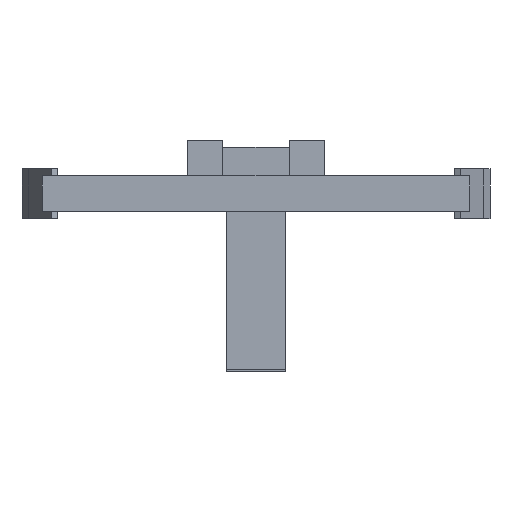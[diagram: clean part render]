
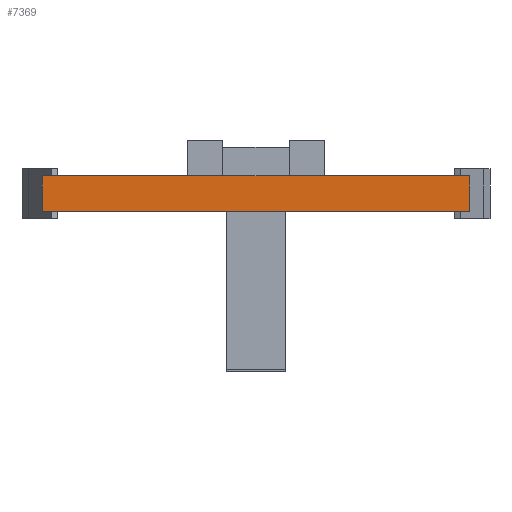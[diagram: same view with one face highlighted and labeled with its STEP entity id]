
A CAD part, front view. The second image highlights one B-rep face of the part: STEP entity #7369.
In plain terms, the highlighted planar face has unit normal (0, -1, 0).
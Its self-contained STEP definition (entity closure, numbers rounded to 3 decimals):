
#5=DIRECTION('',(1.,0.,0.));
#6=VECTOR('',#5,56.);
#7=CARTESIAN_POINT('',(-28.,125.,0.));
#8=LINE('',#7,#6);
#1061=DIRECTION('',(-1.,0.,0.));
#1062=VECTOR('',#1061,152.);
#1063=CARTESIAN_POINT('',(-28.,125.,0.));
#1064=LINE('',#1063,#1062);
#1089=DIRECTION('',(-1.,0.,0.));
#1090=VECTOR('',#1089,152.);
#1091=CARTESIAN_POINT('',(180.,125.,0.));
#1092=LINE('',#1091,#1090);
#1133=DIRECTION('',(0.,0.,-1.));
#1134=VECTOR('',#1133,30.);
#1135=CARTESIAN_POINT('',(-180.,125.,0.));
#1136=LINE('',#1135,#1134);
#1153=DIRECTION('',(-1.,0.,0.));
#1154=VECTOR('',#1153,360.);
#1155=CARTESIAN_POINT('',(180.,125.,-30.));
#1156=LINE('',#1155,#1154);
#1185=DIRECTION('',(0.,0.,-1.));
#1186=VECTOR('',#1185,30.);
#1187=CARTESIAN_POINT('',(180.,125.,0.));
#1188=LINE('',#1187,#1186);
#4425=CARTESIAN_POINT('',(180.,125.,-30.));
#4426=CARTESIAN_POINT('',(-180.,125.,-30.));
#4427=VERTEX_POINT('',#4425);
#4428=VERTEX_POINT('',#4426);
#4433=CARTESIAN_POINT('',(180.,125.,0.));
#4434=VERTEX_POINT('',#4433);
#4435=CARTESIAN_POINT('',(-180.,125.,0.));
#4436=VERTEX_POINT('',#4435);
#4441=CARTESIAN_POINT('',(28.,125.,0.));
#4442=VERTEX_POINT('',#4441);
#4491=CARTESIAN_POINT('',(-28.,125.,0.));
#4492=VERTEX_POINT('',#4491);
#7355=CARTESIAN_POINT('',(180.,125.,0.));
#7356=DIRECTION('',(0.,-1.,0.));
#7357=DIRECTION('',(-1.,0.,0.));
#7358=AXIS2_PLACEMENT_3D('',#7355,#7356,#7357);
#7359=PLANE('',#7358);
#7360=ORIENTED_EDGE('',*,*,#7215,.F.);
#7362=ORIENTED_EDGE('',*,*,#7361,.T.);
#7363=ORIENTED_EDGE('',*,*,#7337,.T.);
#7364=ORIENTED_EDGE('',*,*,#7321,.F.);
#7365=ORIENTED_EDGE('',*,*,#7193,.F.);
#7366=ORIENTED_EDGE('',*,*,#5868,.T.);
#7367=EDGE_LOOP('',(#7360,#7362,#7363,#7364,#7365,#7366));
#7368=FACE_OUTER_BOUND('',#7367,.F.);
#7369=ADVANCED_FACE('',(#7368),#7359,.T.);
#5868=EDGE_CURVE('',#4492,#4442,#8,.T.);
#7193=EDGE_CURVE('',#4492,#4436,#1064,.T.);
#7215=EDGE_CURVE('',#4434,#4442,#1092,.T.);
#7321=EDGE_CURVE('',#4436,#4428,#1136,.T.);
#7337=EDGE_CURVE('',#4427,#4428,#1156,.T.);
#7361=EDGE_CURVE('',#4434,#4427,#1188,.T.);
